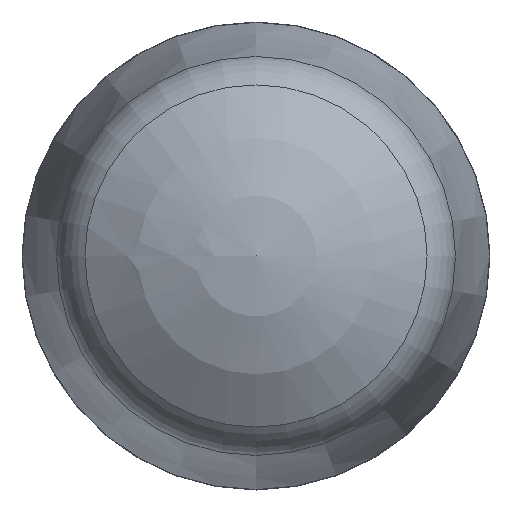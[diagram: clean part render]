
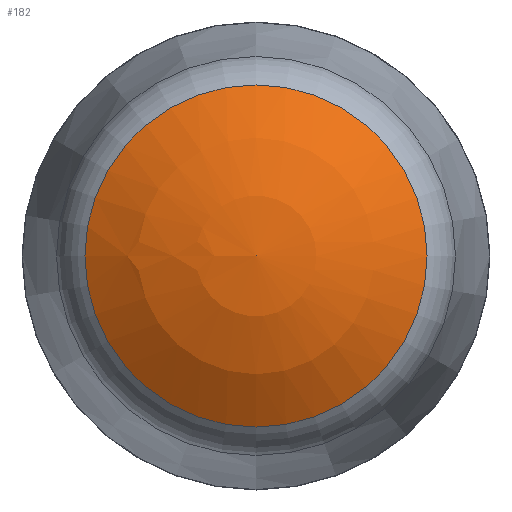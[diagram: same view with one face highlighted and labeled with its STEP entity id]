
A CAD part, front view. The second image highlights one B-rep face of the part: STEP entity #182.
In plain terms, the highlighted spherical face has radius 8 mm.
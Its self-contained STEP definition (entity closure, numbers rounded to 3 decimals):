
#182 = ADVANCED_FACE( '', ( #217, #218 ), #219, .T. );
#217 = FACE_BOUND( '', #293, .T. );
#218 = FACE_OUTER_BOUND( '', #294, .T. );
#219 = SPHERICAL_SURFACE( '', #295, 8. );
#293 = VERTEX_LOOP( '', #370 );
#294 = EDGE_LOOP( '', ( #371 ) );
#295 = AXIS2_PLACEMENT_3D( '', #372, #373, #374 );
#370 = VERTEX_POINT( '', #568 );
#371 = ORIENTED_EDGE( '', *, *, #567, .T. );
#372 = CARTESIAN_POINT( '', ( 0., 8., 0. ) );
#373 = DIRECTION( '', ( 0., -1., 0. ) );
#374 = DIRECTION( '', ( -1., 0., 0. ) );
#567 = EDGE_CURVE( '', #623, #623, #624, .T. );
#568 = CARTESIAN_POINT( '', ( 0., 0., 0. ) );
#623 = VERTEX_POINT( '', #711 );
#624 = CIRCLE( '', #712, 4.667 );
#711 = CARTESIAN_POINT( '', ( 0., 1.502, -4.667 ) );
#712 = AXIS2_PLACEMENT_3D( '', #910, #911, #912 );
#910 = CARTESIAN_POINT( '', ( 0., 1.502, 0. ) );
#911 = DIRECTION( '', ( 0., -1., 0. ) );
#912 = DIRECTION( '', ( 0., 0., -1. ) );
